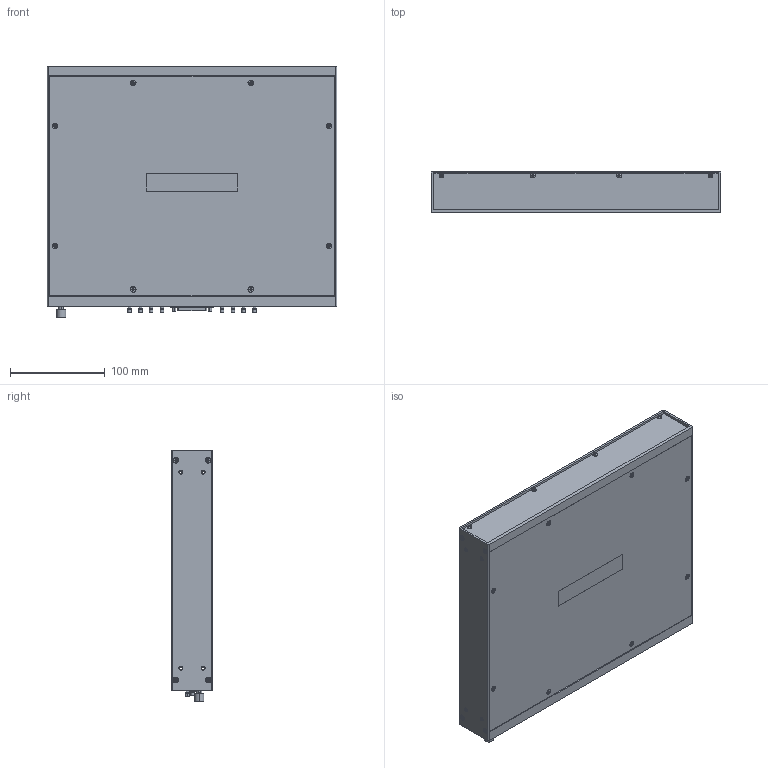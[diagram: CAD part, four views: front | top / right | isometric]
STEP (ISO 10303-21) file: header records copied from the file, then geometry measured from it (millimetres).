
FILE_DESCRIPTION((''),'2;1');
FILE_NAME('CU_SMB-2145','2010-06-14T',('jjorden'),(''),'PRO/ENGINEER BY PARAMETRIC TECHNOLOGY CORPORATION, 2006080','PRO/ENGINEER BY PARAMETRIC TECHNOLOGY CORPORATION, 2006080','');
FILE_SCHEMA(('CONFIG_CONTROL_DESIGN'));
Products named in the file (1): CU_SMB-2145
Bounding box: 306.32 x 43.94 x 266.42 mm (x, y, z)
Volume: 442772.4 mm3; surface area: 470296.7 mm2
Topology: 33 solids, 33 shells, 3061 faces, 7624 edges, 4364 vertices
Faces by surface type: plane 1367, cylinder 798, bspline 560, cone 276, sphere 40, torus 20
Entity records: 109913 total; most frequent: CARTESIAN_POINT 41071, ORIENTED_EDGE 14224, DIRECTION 13488, EDGE_CURVE 7112, VERTEX_POINT 4972, AXIS2_PLACEMENT_3D 4748, VECTOR 3992, LINE 3992
